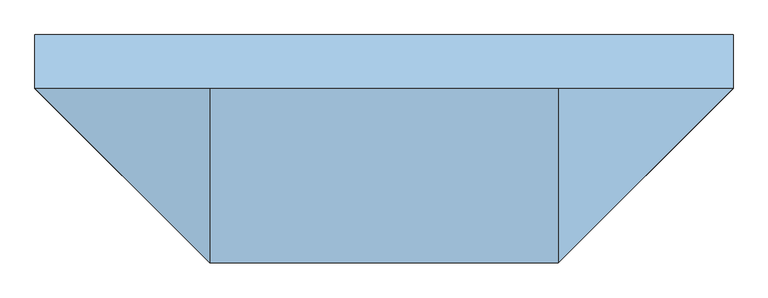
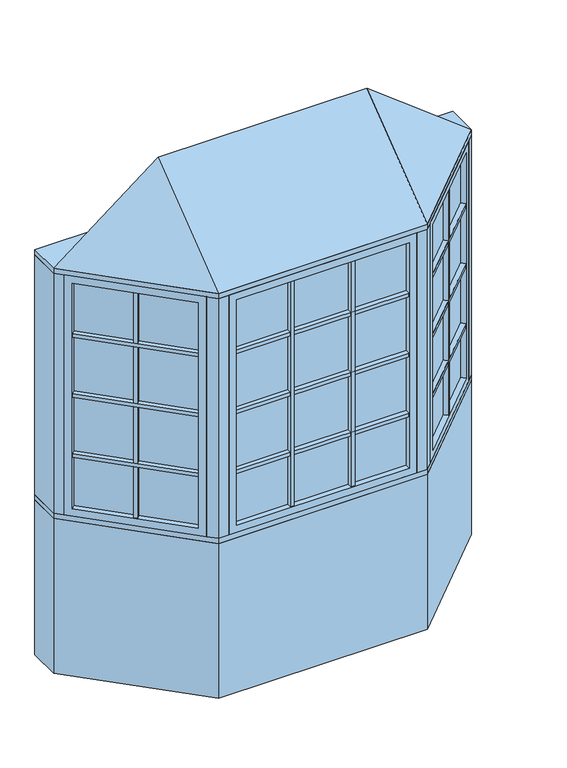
"""IFC4 building model written with IfcOpenShell, lengths in millimetres: window geometry, Pollard_Windows_Tudor Casement Bows and Bays : AML-BAY 45 AFR0512-10-600_GC."""

from ifc_helpers import new_model, si_unit, frame, origin, origin_with_axes, place, context, project, spatial, polyline, outline, extrude, faceted_brep, source, transform, mapped, element, save


def window_a9078dc5(model_context):
    return source(origin(), model_context, "Body", "SolidModel", [
        extrude(outline(polyline([(553.0114193, -506.9608753), (537.4550701, -491.4045261), (915.116171, -113.7434252), (930.6725202, -129.2997743), (553.0114193, -506.9608753)])), frame((0.0, 0.0, 1390.998), z_axis=(0.0, 0.0, 1.0), x_axis=(1.0, 0.0, 0.0)), (0.0, 0.0, 1.0), 18.0),
        extrude(outline(polyline([(533.8629677, -487.8124236), (518.3066185, -472.2560744), (895.9677194, -94.5949735), (911.5240686, -110.1513227), (533.8629677, -487.8124236)])), frame((0.0, 0.0, 1390.998), z_axis=(0.0, 0.0, 1.0), x_axis=(1.0, 0.0, 0.0)), (0.0, 0.0, 1.0), 18.0),
        extrude(outline(polyline([(553.0114193, -506.9608753), (537.4550701, -491.4045261), (915.116171, -113.7434252), (930.6725202, -129.2997743), (553.0114193, -506.9608753)])), frame((0.0, 0.0, 1090.998), z_axis=(0.0, 0.0, 1.0), x_axis=(1.0, 0.0, 0.0)), (0.0, 0.0, 1.0), 18.0),
        extrude(outline(polyline([(533.8629677, -487.8124236), (518.3066185, -472.2560744), (895.9677194, -94.5949735), (911.5240686, -110.1513227), (533.8629677, -487.8124236)])), frame((0.0, 0.0, 1090.998), z_axis=(0.0, 0.0, 1.0), x_axis=(1.0, 0.0, 0.0)), (0.0, 0.0, 1.0), 18.0),
        extrude(outline(polyline([(553.0114193, -506.9608753), (537.4550701, -491.4045261), (915.116171, -113.7434252), (930.6725202, -129.2997743), (553.0114193, -506.9608753)])), frame((0.0, 0.0, 1390.998), z_axis=(0.0, 0.0, 1.0), x_axis=(1.0, 0.0, 0.0)), (0.0, 0.0, 1.0), 18.0),
        extrude(outline(polyline([(533.8629677, -487.8124236), (518.3066185, -472.2560744), (895.9677194, -94.5949735), (911.5240686, -110.1513227), (533.8629677, -487.8124236)])), frame((0.0, 0.0, 1390.998), z_axis=(0.0, 0.0, 1.0), x_axis=(1.0, 0.0, 0.0)), (0.0, 0.0, 1.0), 18.0),
        extrude(outline(polyline([(553.0114193, -506.9608753), (537.4550701, -491.4045261), (915.116171, -113.7434252), (930.6725202, -129.2997743), (553.0114193, -506.9608753)])), frame((0.0, 0.0, 1390.998), z_axis=(0.0, 0.0, 1.0), x_axis=(1.0, 0.0, 0.0)), (0.0, 0.0, 1.0), 18.0),
        extrude(outline(polyline([(533.8629677, -487.8124236), (518.3066185, -472.2560744), (895.9677194, -94.5949735), (911.5240686, -110.1513227), (533.8629677, -487.8124236)])), frame((0.0, 0.0, 1390.998), z_axis=(0.0, 0.0, 1.0), x_axis=(1.0, 0.0, 0.0)), (0.0, 0.0, 1.0), 18.0),
        extrude(outline(polyline([(553.0114193, -506.9608753), (537.4550701, -491.4045261), (915.116171, -113.7434252), (930.6725202, -129.2997743), (553.0114193, -506.9608753)])), frame((0.0, 0.0, 1690.998), z_axis=(0.0, 0.0, 1.0), x_axis=(1.0, 0.0, 0.0)), (0.0, 0.0, 1.0), 18.0),
        extrude(outline(polyline([(533.8629677, -487.8124236), (518.3066185, -472.2560744), (895.9677194, -94.5949735), (911.5240686, -110.1513227), (533.8629677, -487.8124236)])), frame((0.0, 0.0, 1690.998), z_axis=(0.0, 0.0, 1.0), x_axis=(1.0, 0.0, 0.0)), (0.0, 0.0, 1.0), 18.0),
        extrude(outline(polyline([(732.6495816, -296.2100146), (748.2059308, -311.7663638), (735.4780087, -324.4942858), (719.9216595, -308.9379366), (732.6495816, -296.2100146)])), frame((0.0, 0.0, 835.8628), z_axis=(0.0, 0.0, 1.0), x_axis=(1.0, 0.0, 0.0)), (0.0, 0.0, 1.0), 1128.2704),
        extrude(outline(polyline([(729.0574791, -292.6179121), (716.3295571, -305.3458342), (700.7732079, -289.789485), (713.50113, -277.0615629), (729.0574791, -292.6179121)])), frame((0.0, 0.0, 835.8628), z_axis=(0.0, 0.0, 1.0), x_axis=(1.0, 0.0, 0.0)), (0.0, 0.0, 1.0), 1128.2704),
        extrude(outline(polyline([(924.0964271, -104.763169), (528.474814, -500.3847822), (524.8827115, -496.7926797), (920.5043247, -101.1710666), (924.0964271, -104.763169)])), frame((0.0, 0.0, 823.1628), z_axis=(0.0, 0.0, 1.0), x_axis=(1.0, 0.0, 0.0)), (0.0, 0.0, 1.0), 1153.6704),
        faceted_brep([(915.116171, -113.7434252, 835.8628), (933.0766833, -131.7039374, 835.8628), (933.0766833, -131.7039374, 1964.1332), (915.116171, -113.7434252, 1964.1332), (920.5043247, -101.1710666, 823.1628), (924.0964271, -104.763169, 823.1628), (924.0964271, -104.763169, 1976.8332), (920.5043247, -101.1710666, 1976.8332), (893.5635563, -92.1908105, 835.8628), (911.5240686, -110.1513227, 835.8628), (911.5240686, -110.1513227, 1964.1332), (893.5635563, -92.1908105, 1964.1332), (958.4369265, -106.3436941, 799.998), (918.9237996, -66.8305672, 799.998), (918.9237996, -66.8305672, 1999.998), (958.4369265, -106.3436941, 1999.998), (555.4155823, -509.3650383, 1964.1332), (537.4550701, -491.4045261, 1964.1332), (528.474814, -500.3847822, 1976.8332), (524.8827115, -496.7926797, 1976.8332), (533.8629677, -487.8124236, 1964.1332), (515.9024554, -469.8519114, 1964.1332), (490.5422121, -495.2121547, 1999.998), (530.0553391, -534.7252816, 1999.998), (555.4155823, -509.3650383, 835.8628), (537.4550701, -491.4045261, 835.8628), (528.474814, -500.3847822, 823.1628), (524.8827115, -496.7926797, 823.1628), (533.8629677, -487.8124236, 835.8628), (515.9024554, -469.8519114, 835.8628), (490.5422121, -495.2121547, 799.998), (530.0553391, -534.7252816, 799.998)], [[[0, 1, 2, 3]], [[4, 5, 6, 7]], [[8, 9, 10, 11]], [[12, 13, 14, 15]], [[3, 2, 16, 17]], [[7, 6, 18, 19]], [[11, 10, 20, 21]], [[15, 14, 22, 23]], [[17, 16, 24, 25]], [[19, 18, 26, 27]], [[21, 20, 28, 29]], [[23, 22, 30, 31]], [[25, 24, 1, 0]], [[5, 26, 18, 6], [3, 17, 25, 0]], [[27, 26, 5, 4]], [[7, 19, 27, 4], [9, 28, 20, 10]], [[29, 28, 9, 8]], [[13, 30, 22, 14], [11, 21, 29, 8]], [[31, 30, 13, 12]], [[15, 23, 31, 12], [1, 24, 16, 2]]]),
        extrude(outline(polyline([(152.5118667, -544.6806207), (152.5118667, -566.6806207), (134.5118667, -566.6806207), (134.5118667, -544.6806207), (152.5118667, -544.6806207)])), frame((0.0, 0.0, 835.8628), z_axis=(0.0, 0.0, 1.0), x_axis=(1.0, 0.0, 0.0)), (0.0, 0.0, 1.0), 1128.2704),
        extrude(outline(polyline([(152.5118667, -539.6006207), (134.5118667, -539.6006207), (134.5118667, -517.6006207), (152.5118667, -517.6006207), (152.5118667, -539.6006207)])), frame((0.0, 0.0, 835.8628), z_axis=(0.0, 0.0, 1.0), x_axis=(1.0, 0.0, 0.0)), (0.0, 0.0, 1.0), 1128.2704),
        extrude(outline(polyline([(-134.5118667, -544.6806207), (-134.5118667, -566.6806207), (-152.5118667, -566.6806207), (-152.5118667, -544.6806207), (-134.5118667, -544.6806207)])), frame((0.0, 0.0, 835.8628), z_axis=(0.0, 0.0, 1.0), x_axis=(1.0, 0.0, 0.0)), (0.0, 0.0, 1.0), 1128.2704),
        extrude(outline(polyline([(-134.5118667, -539.6006207), (-152.5118667, -539.6006207), (-152.5118667, -517.6006207), (-134.5118667, -517.6006207), (-134.5118667, -539.6006207)])), frame((0.0, 0.0, 835.8628), z_axis=(0.0, 0.0, 1.0), x_axis=(1.0, 0.0, 0.0)), (0.0, 0.0, 1.0), 1128.2704),
        extrude(outline(polyline([(-408.8352, -566.6806207), (-408.8352, -544.6806207), (408.8352, -544.6806207), (408.8352, -566.6806207), (-408.8352, -566.6806207)])), frame((0.0, 0.0, 1090.998), z_axis=(0.0, 0.0, 1.0), x_axis=(1.0, 0.0, 0.0)), (0.0, 0.0, 1.0), 18.0),
        extrude(outline(polyline([(-408.8352, -539.6006207), (-408.8352, -517.6006207), (408.8352, -517.6006207), (408.8352, -539.6006207), (-408.8352, -539.6006207)])), frame((0.0, 0.0, 1090.998), z_axis=(0.0, 0.0, 1.0), x_axis=(1.0, 0.0, 0.0)), (0.0, 0.0, 1.0), 18.0),
        extrude(outline(polyline([(-408.8352, -566.6806207), (-408.8352, -544.6806207), (408.8352, -544.6806207), (408.8352, -566.6806207), (-408.8352, -566.6806207)])), frame((0.0, 0.0, 1390.998), z_axis=(0.0, 0.0, 1.0), x_axis=(1.0, 0.0, 0.0)), (0.0, 0.0, 1.0), 18.0),
        extrude(outline(polyline([(-408.8352, -539.6006207), (-408.8352, -517.6006207), (408.8352, -517.6006207), (408.8352, -539.6006207), (-408.8352, -539.6006207)])), frame((0.0, 0.0, 1390.998), z_axis=(0.0, 0.0, 1.0), x_axis=(1.0, 0.0, 0.0)), (0.0, 0.0, 1.0), 18.0),
        extrude(outline(polyline([(-408.8352, -566.6806207), (-408.8352, -544.6806207), (408.8352, -544.6806207), (408.8352, -566.6806207), (-408.8352, -566.6806207)])), frame((0.0, 0.0, 1390.998), z_axis=(0.0, 0.0, 1.0), x_axis=(1.0, 0.0, 0.0)), (0.0, 0.0, 1.0), 18.0),
        extrude(outline(polyline([(-408.8352, -539.6006207), (-408.8352, -517.6006207), (408.8352, -517.6006207), (408.8352, -539.6006207), (-408.8352, -539.6006207)])), frame((0.0, 0.0, 1390.998), z_axis=(0.0, 0.0, 1.0), x_axis=(1.0, 0.0, 0.0)), (0.0, 0.0, 1.0), 18.0),
        extrude(outline(polyline([(-408.8352, -566.6806207), (-408.8352, -544.6806207), (408.8352, -544.6806207), (408.8352, -566.6806207), (-408.8352, -566.6806207)])), frame((0.0, 0.0, 1390.998), z_axis=(0.0, 0.0, 1.0), x_axis=(1.0, 0.0, 0.0)), (0.0, 0.0, 1.0), 18.0),
        extrude(outline(polyline([(-408.8352, -539.6006207), (-408.8352, -517.6006207), (408.8352, -517.6006207), (408.8352, -539.6006207), (-408.8352, -539.6006207)])), frame((0.0, 0.0, 1390.998), z_axis=(0.0, 0.0, 1.0), x_axis=(1.0, 0.0, 0.0)), (0.0, 0.0, 1.0), 18.0),
        extrude(outline(polyline([(-930.6725202, -129.2997743), (-915.116171, -113.7434252), (-537.4550701, -491.4045261), (-553.0114193, -506.9608753), (-930.6725202, -129.2997743)])), frame((0.0, 0.0, 1090.998), z_axis=(0.0, 0.0, 1.0), x_axis=(1.0, 0.0, 0.0)), (0.0, 0.0, 1.0), 18.0),
        extrude(outline(polyline([(-911.5240686, -110.1513227), (-895.9677194, -94.5949735), (-518.3066185, -472.2560744), (-533.8629677, -487.8124236), (-911.5240686, -110.1513227)])), frame((0.0, 0.0, 1090.998), z_axis=(0.0, 0.0, 1.0), x_axis=(1.0, 0.0, 0.0)), (0.0, 0.0, 1.0), 18.0),
        extrude(outline(polyline([(-930.6725202, -129.2997743), (-915.116171, -113.7434252), (-537.4550701, -491.4045261), (-553.0114193, -506.9608753), (-930.6725202, -129.2997743)])), frame((0.0, 0.0, 1390.998), z_axis=(0.0, 0.0, 1.0), x_axis=(1.0, 0.0, 0.0)), (0.0, 0.0, 1.0), 18.0),
        extrude(outline(polyline([(-911.5240686, -110.1513227), (-895.9677194, -94.5949735), (-518.3066185, -472.2560744), (-533.8629677, -487.8124236), (-911.5240686, -110.1513227)])), frame((0.0, 0.0, 1390.998), z_axis=(0.0, 0.0, 1.0), x_axis=(1.0, 0.0, 0.0)), (0.0, 0.0, 1.0), 18.0),
        extrude(outline(polyline([(-930.6725202, -129.2997743), (-915.116171, -113.7434252), (-537.4550701, -491.4045261), (-553.0114193, -506.9608753), (-930.6725202, -129.2997743)])), frame((0.0, 0.0, 1390.998), z_axis=(0.0, 0.0, 1.0), x_axis=(1.0, 0.0, 0.0)), (0.0, 0.0, 1.0), 18.0),
        extrude(outline(polyline([(-911.5240686, -110.1513227), (-895.9677194, -94.5949735), (-518.3066185, -472.2560744), (-533.8629677, -487.8124236), (-911.5240686, -110.1513227)])), frame((0.0, 0.0, 1390.998), z_axis=(0.0, 0.0, 1.0), x_axis=(1.0, 0.0, 0.0)), (0.0, 0.0, 1.0), 18.0),
        extrude(outline(polyline([(-930.6725202, -129.2997743), (-915.116171, -113.7434252), (-537.4550701, -491.4045261), (-553.0114193, -506.9608753), (-930.6725202, -129.2997743)])), frame((0.0, 0.0, 1390.998), z_axis=(0.0, 0.0, 1.0), x_axis=(1.0, 0.0, 0.0)), (0.0, 0.0, 1.0), 18.0),
        extrude(outline(polyline([(-911.5240686, -110.1513227), (-895.9677194, -94.5949735), (-518.3066185, -472.2560744), (-533.8629677, -487.8124236), (-911.5240686, -110.1513227)])), frame((0.0, 0.0, 1390.998), z_axis=(0.0, 0.0, 1.0), x_axis=(1.0, 0.0, 0.0)), (0.0, 0.0, 1.0), 18.0),
        extrude(outline(polyline([(-930.6725202, -129.2997743), (-915.116171, -113.7434252), (-537.4550701, -491.4045261), (-553.0114193, -506.9608753), (-930.6725202, -129.2997743)])), frame((0.0, 0.0, 1690.998), z_axis=(0.0, 0.0, 1.0), x_axis=(1.0, 0.0, 0.0)), (0.0, 0.0, 1.0), 18.0),
        extrude(outline(polyline([(-911.5240686, -110.1513227), (-895.9677194, -94.5949735), (-518.3066185, -472.2560744), (-533.8629677, -487.8124236), (-911.5240686, -110.1513227)])), frame((0.0, 0.0, 1690.998), z_axis=(0.0, 0.0, 1.0), x_axis=(1.0, 0.0, 0.0)), (0.0, 0.0, 1.0), 18.0),
        extrude(outline(polyline([(-408.8352, -566.6806207), (-408.8352, -544.6806207), (408.8352, -544.6806207), (408.8352, -566.6806207), (-408.8352, -566.6806207)])), frame((0.0, 0.0, 1690.998), z_axis=(0.0, 0.0, 1.0), x_axis=(1.0, 0.0, 0.0)), (0.0, 0.0, 1.0), 18.0),
        extrude(outline(polyline([(-408.8352, -539.6006207), (-408.8352, -517.6006207), (408.8352, -517.6006207), (408.8352, -539.6006207), (-408.8352, -539.6006207)])), frame((0.0, 0.0, 1690.998), z_axis=(0.0, 0.0, 1.0), x_axis=(1.0, 0.0, 0.0)), (0.0, 0.0, 1.0), 18.0),
        extrude(outline(polyline([(-719.9216595, -308.9379366), (-735.4780087, -324.4942858), (-748.2059308, -311.7663638), (-732.6495816, -296.2100146), (-719.9216595, -308.9379366)])), frame((0.0, 0.0, 835.8628), z_axis=(0.0, 0.0, 1.0), x_axis=(1.0, 0.0, 0.0)), (0.0, 0.0, 1.0), 1128.2704),
        extrude(outline(polyline([(-716.3295571, -305.3458342), (-729.0574791, -292.6179121), (-713.50113, -277.0615629), (-700.7732079, -289.789485), (-716.3295571, -305.3458342)])), frame((0.0, 0.0, 835.8628), z_axis=(0.0, 0.0, 1.0), x_axis=(1.0, 0.0, 0.0)), (0.0, 0.0, 1.0), 1128.2704),
        extrude(outline(polyline([(-528.474814, -500.3847822), (-924.0964271, -104.763169), (-920.5043247, -101.1710666), (-524.8827115, -496.7926797), (-528.474814, -500.3847822)])), frame((0.0, 0.0, 823.1628), z_axis=(0.0, 0.0, 1.0), x_axis=(1.0, 0.0, 0.0)), (0.0, 0.0, 1.0), 1153.6704),
        faceted_brep([(-533.8629677, -487.8124236, 1964.1332), (-515.9024554, -469.8519114, 1964.1332), (-515.9024554, -469.8519114, 835.8628), (-533.8629677, -487.8124236, 835.8628), (-528.474814, -500.3847822, 1976.8332), (-524.8827115, -496.7926797, 1976.8332), (-524.8827115, -496.7926797, 823.1628), (-528.474814, -500.3847822, 823.1628), (-555.4155823, -509.3650383, 1964.1332), (-537.4550701, -491.4045261, 1964.1332), (-537.4550701, -491.4045261, 835.8628), (-555.4155823, -509.3650383, 835.8628), (-490.5422121, -495.2121547, 1999.998), (-530.0553391, -534.7252816, 1999.998), (-530.0553391, -534.7252816, 799.998), (-490.5422121, -495.2121547, 799.998), (-893.5635563, -92.1908105, 835.8628), (-911.5240686, -110.1513227, 835.8628), (-920.5043247, -101.1710666, 823.1628), (-924.0964271, -104.763169, 823.1628), (-915.116171, -113.7434252, 835.8628), (-933.0766833, -131.7039374, 835.8628), (-958.4369265, -106.3436941, 799.998), (-918.9237996, -66.8305672, 799.998), (-893.5635563, -92.1908105, 1964.1332), (-911.5240686, -110.1513227, 1964.1332), (-920.5043247, -101.1710666, 1976.8332), (-924.0964271, -104.763169, 1976.8332), (-915.116171, -113.7434252, 1964.1332), (-933.0766833, -131.7039374, 1964.1332), (-958.4369265, -106.3436941, 1999.998), (-918.9237996, -66.8305672, 1999.998)], [[[0, 1, 2, 3]], [[4, 5, 6, 7]], [[8, 9, 10, 11]], [[12, 13, 14, 15]], [[3, 2, 16, 17]], [[7, 6, 18, 19]], [[11, 10, 20, 21]], [[15, 14, 22, 23]], [[17, 16, 24, 25]], [[19, 18, 26, 27]], [[21, 20, 28, 29]], [[23, 22, 30, 31]], [[15, 23, 31, 12], [1, 24, 16, 2]], [[25, 24, 1, 0]], [[5, 26, 18, 6], [3, 17, 25, 0]], [[27, 26, 5, 4]], [[7, 19, 27, 4], [9, 28, 20, 10]], [[29, 28, 9, 8]], [[13, 30, 22, 14], [11, 21, 29, 8]], [[31, 30, 13, 12]]]),
        extrude(outline(polyline([(421.5352, -544.6806207), (-421.5352, -544.6806207), (-421.5352, -539.6006207), (421.5352, -539.6006207), (421.5352, -544.6806207)])), frame((0.0, 0.0, 823.1628), z_axis=(0.0, 0.0, 1.0), x_axis=(1.0, 0.0, 0.0)), (0.0, 0.0, 1.0), 1153.6704),
        faceted_brep([(408.8352, -544.6806207, 835.8628), (408.8352, -570.0806207, 835.8628), (408.8352, -570.0806207, 1964.1332), (408.8352, -544.6806207, 1964.1332), (421.5352, -539.6006207, 823.1628), (421.5352, -544.6806207, 823.1628), (421.5352, -544.6806207, 1976.8332), (421.5352, -539.6006207, 1976.8332), (408.8352, -514.2006207, 835.8628), (408.8352, -539.6006207, 835.8628), (408.8352, -539.6006207, 1964.1332), (408.8352, -514.2006207, 1964.1332), (444.7, -570.0806207, 799.998), (444.7, -514.2006207, 799.998), (444.7, -514.2006207, 1999.998), (444.7, -570.0806207, 1999.998), (-408.8352, -570.0806207, 1964.1332), (-408.8352, -544.6806207, 1964.1332), (-421.5352, -544.6806207, 1976.8332), (-421.5352, -539.6006207, 1976.8332), (-408.8352, -539.6006207, 1964.1332), (-408.8352, -514.2006207, 1964.1332), (-444.7, -514.2006207, 1999.998), (-444.7, -570.0806207, 1999.998), (-408.8352, -570.0806207, 835.8628), (-408.8352, -544.6806207, 835.8628), (-421.5352, -544.6806207, 823.1628), (-421.5352, -539.6006207, 823.1628), (-408.8352, -539.6006207, 835.8628), (-408.8352, -514.2006207, 835.8628), (-444.7, -514.2006207, 799.998), (-444.7, -570.0806207, 799.998)], [[[0, 1, 2, 3]], [[4, 5, 6, 7]], [[8, 9, 10, 11]], [[12, 13, 14, 15]], [[3, 2, 16, 17]], [[7, 6, 18, 19]], [[11, 10, 20, 21]], [[15, 14, 22, 23]], [[17, 16, 24, 25]], [[19, 18, 26, 27]], [[21, 20, 28, 29]], [[23, 22, 30, 31]], [[15, 23, 31, 12], [1, 24, 16, 2]], [[25, 24, 1, 0]], [[5, 26, 18, 6], [3, 17, 25, 0]], [[27, 26, 5, 4]], [[7, 19, 27, 4], [9, 28, 20, 10]], [[29, 28, 9, 8]], [[13, 30, 22, 14], [11, 21, 29, 8]], [[31, 30, 13, 12]]]),
        faceted_brep([(990.0, -74.7806207, 2025.398), (494.7, -570.0806207, 2025.398), (-494.7, -570.0806207, 2025.398), (-990.0, -74.7806207, 2025.398), (-494.7, -74.7806207, 2406.398), (494.7, -74.7806207, 2406.398)], [[[0, 1, 2, 3]], [[3, 2, 4]], [[2, 1, 5, 4]], [[1, 0, 5]], [[0, 3, 4, 5]]]),
        extrude(outline(polyline([(-990.0, 77.6193793), (990.0, 77.6193793), (990.0, -74.7806207), (494.7, -570.0806207), (-494.7, -570.0806207), (-990.0, -74.7806207), (-990.0, 77.6193793)])), frame((0.0, 0.0, 1999.998), z_axis=(0.0, 0.0, 1.0), x_axis=(1.0, 0.0, 0.0)), (0.0, 0.0, 1.0), 25.4),
        extrude(outline(polyline([(-990.0, -74.7806207), (-990.0, 77.6193793), (-926.8738531, 77.6193793), (-926.8738531, -74.7806207), (-958.4369265, -106.3436941), (-990.0, -74.7806207)])), frame((0.0, 0.0, 799.998), z_axis=(0.0, 0.0, 1.0), x_axis=(1.0, 0.0, 0.0)), (0.0, 0.0, 1.0), 1200.0),
        extrude(outline(polyline([(990.0, 77.6193793), (990.0, -74.7806207), (958.4369265, -106.3436941), (926.8738531, -74.7806207), (926.8738531, 77.6193793), (990.0, 77.6193793)])), frame((0.0, 0.0, 799.998), z_axis=(0.0, 0.0, 1.0), x_axis=(1.0, 0.0, 0.0)), (0.0, 0.0, 1.0), 1200.0),
        extrude(outline(polyline([(494.7, -570.0806207), (444.7, -570.0806207), (444.7, -520.0806207), (473.9893219, -520.0806207), (494.7, -499.3699425), (530.0553391, -534.7252816), (494.7, -570.0806207)])), frame((0.0, 0.0, 799.998), z_axis=(0.0, 0.0, 1.0), x_axis=(1.0, 0.0, 0.0)), (0.0, 0.0, 1.0), 1200.0),
        extrude(outline(polyline([(-494.7, -570.0806207), (-530.0553391, -534.7252816), (-494.7, -499.3699425), (-473.9893219, -520.0806207), (-444.7, -520.0806207), (-444.7, -570.0806207), (-494.7, -570.0806207)])), frame((0.0, 0.0, 799.998), z_axis=(0.0, 0.0, 1.0), x_axis=(1.0, 0.0, 0.0)), (0.0, 0.0, 1.0), 1200.0),
        extrude(outline(polyline([(-494.7, -570.0806207), (-990.0, -74.7806207), (-990.0, 77.6193793), (-926.8738531, 77.6193793), (-431.5738531, -417.6806207), (431.5738531, -417.6806207), (926.8738531, 77.6193793), (990.0, 77.6193793), (990.0, -74.7806207), (494.7, -570.0806207), (-494.7, -570.0806207)])), frame((0.0, 0.0, 774.598), z_axis=(0.0, 0.0, 1.0), x_axis=(1.0, 0.0, 0.0)), (0.0, 0.0, 1.0), 25.4),
        extrude(outline(polyline([(-990.0, -74.7806207), (-990.0, 77.6193793), (-926.8738531, 77.6193793), (-431.5738531, -417.6806207), (431.5738531, -417.6806207), (926.8738531, 77.6193793), (990.0, 77.6193793), (990.0, -74.7806207), (494.7, -570.0806207), (-494.7, -570.0806207), (-990.0, -74.7806207)])), origin_with_axes(), (0.0, 0.0, 1.0), 774.598),
    ])


if __name__ == "__main__":
    model = new_model("IFC4")
    model_context = context("Model", 3, world=origin())
    ifc_project = project(units=[si_unit("LENGTHUNIT", "METRE", prefix="MILLI")], contexts=[model_context])
    site = spatial("IfcSite", under=ifc_project)
    building = spatial("IfcBuilding", under=site)
    placement = place(None, origin())
    window_shape = window_a9078dc5(model_context)
    element("IfcWindow", 1, ObjectType="Pollard_Windows_Tudor Casement Bows and Bays : AML-BAY 45 AFR0512-10-600_GC", at=placement, inside=building, context=model_context, shape_type="MappedRepresentation", body=[
        mapped(window_shape, transform((0.0, 0.0, 0.0), x_axis=(1.0, 0.0, 0.0), y_axis=(0.0, 1.0, 0.0), z_axis=(0.0, 0.0, 1.0))),
    ])
    save(model, "model.ifc")
